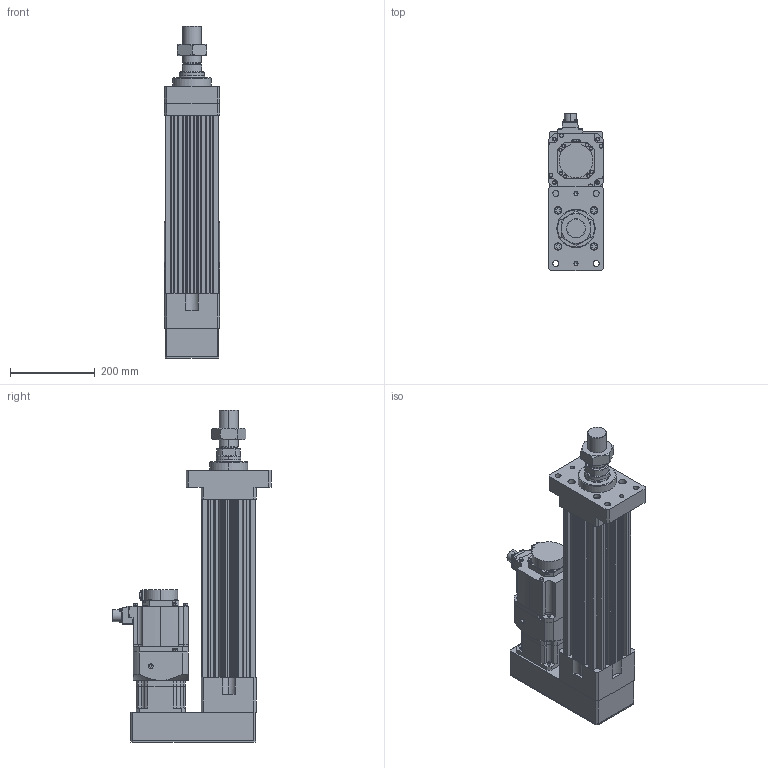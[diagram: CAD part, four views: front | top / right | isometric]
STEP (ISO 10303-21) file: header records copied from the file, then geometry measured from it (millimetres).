
FILE_DESCRIPTION (( 'STEP AP203' ), '1' );
FILE_NAME ('HES130NS(FS)(HS)-P200-W015G00-M-FMB.STEP', '2023-01-29T05:16:59', ( 'tms' ), ( '' ), 'SwSTEP 2.0', 'SolidWorks 2013', '' );
FILE_SCHEMA (( 'CONFIG_CONTROL_DESIGN' ));
Length unit declared in the file: millimetre
Products named in the file (8): HES130NS(FS)(HS)-P200-W015G00-M-FMB; HES130 ROD M ST200; AB115-003[HG-SR152]; HES130-P200-G120-FMB; M45X1.5P; HG-SR152; P0401400706; AB1151
Assembly tree (7 placements, depth 3):
  HES130NS(FS)(HS)-P200-W015G00-M-FMB
    HES130-P200-G120-FMB
    HES130 ROD M ST200
    M45X1.5P
    AB115-003[HG-SR152]
      AB1151
      P0401400706
    HG-SR152
Bounding box: 130 x 372.49 x 782 mm (x, y, z)
Volume: 10033831.9 mm3; surface area: 1125090.6 mm2
Topology: 4 solids, 11 shells, 1082 faces, 2768 edges, 1799 vertices
Faces by surface type: cylinder 513, plane 489, cone 68, bspline 8, torus 4
Entity records: 34626 total; most frequent: CARTESIAN_POINT 6632, DIRECTION 5993, ORIENTED_EDGE 5484, EDGE_CURVE 2752, AXIS2_PLACEMENT_3D 2228, VERTEX_POINT 1799, LINE 1537, VECTOR 1537
